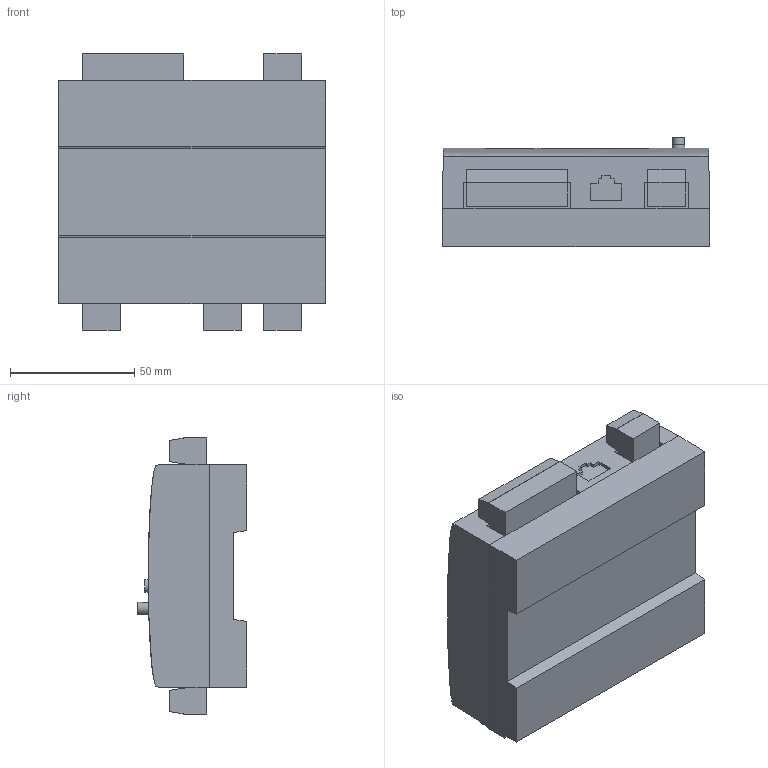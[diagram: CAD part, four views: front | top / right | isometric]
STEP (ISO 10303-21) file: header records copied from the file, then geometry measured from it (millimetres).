
FILE_DESCRIPTION(/* description */ ('STEP AP242','CAx-IF Rec.Pracs.---Representation and Presentation of Product Manufacturing Information (PMI)---4.0---2014-10-13','CAx-IF Rec.Pracs.---3D Tessellated Geometry---0.4---2014-09-14','2;1'),/* implementation_level */ '2;1');
FILE_NAME(/* name */ '6634ec177859092b1b9c4964',/* time_stamp */ '2024-05-03T13:52:24Z',/* author */ (''),/* organization */ (''),/* preprocessor_version */ 'ST-DEVELOPER v20',/* originating_system */ ' ',/* authorisation */ ' ');
FILE_SCHEMA (('AP242_MANAGED_MODEL_BASED_3D_ENGINEERING_MIM_LF { 1 0 10303 442 1 1 4 }'));
Length unit declared in the file: metre
Products named in the file (4): DIN_abs; 5PinGreen; XPC
Assembly tree (6 placements, depth 2):
  DIN_abs
    5PinGreen  x4
    XPC
    5PinGreen
Bounding box: 107.5 x 43.84 x 111 mm (x, y, z)
Volume: 367252.8 mm3; surface area: 42099.4 mm2
Topology: 6 solids, 6 shells, 127 faces, 298 edges, 194 vertices
Faces by surface type: plane 108, cylinder 10, bspline 9
Full cylindrical faces by diameter (mm): 2.3 x8, 4.8 x1, 5.1 x1
Entity records: 3032 total; most frequent: CARTESIAN_POINT 779, ORIENTED_EDGE 428, DIRECTION 386, EDGE_CURVE 214, LINE 192, VECTOR 192, VERTEX_POINT 144, EDGE_LOOP 118
